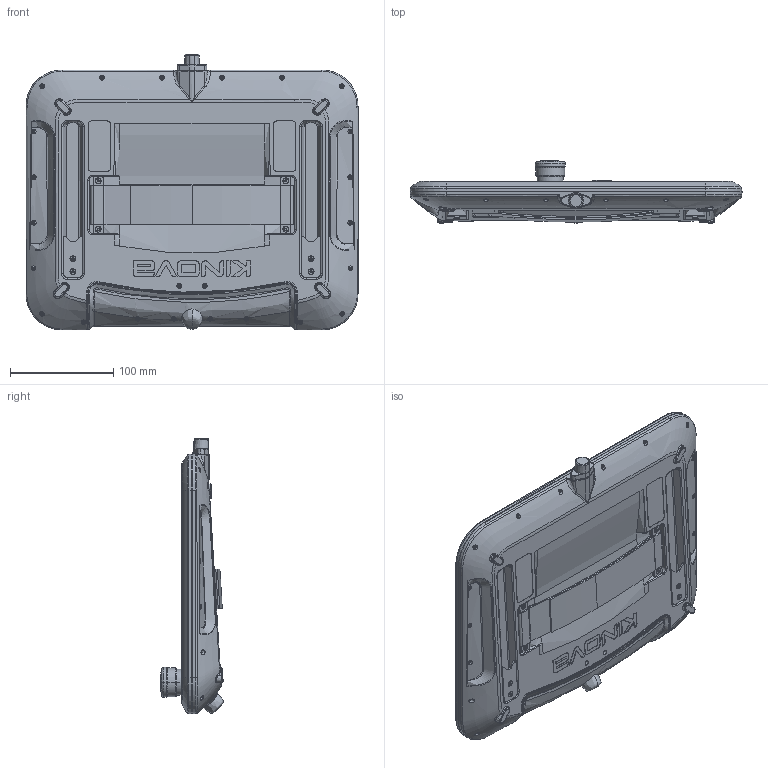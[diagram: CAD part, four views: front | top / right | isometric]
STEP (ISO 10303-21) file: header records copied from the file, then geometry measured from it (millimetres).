
FILE_DESCRIPTION (( 'STEP AP214' ), '1' );
FILE_NAME ('LINK TEACH PENDANT_LITE_R01.STEP', '2022-06-14T14:20:38', ( '' ), ( '' ), 'SwSTEP 2.0', 'SolidWorks 2022', '' );
FILE_SCHEMA (( 'AUTOMOTIVE_DESIGN' ));
Length unit declared in the file: foot
Products named in the file (1): LINK TEACH PENDANT_LITE_R01
Bounding box: 322 x 60.58 x 267.4 mm (x, y, z)
Volume: 1674581.4 mm3; surface area: 415325.9 mm2
Topology: 46 solids, 46 shells, 1938 faces, 4948 edges, 3182 vertices
Faces by surface type: cylinder 864, plane 490, bspline 345, cone 127, torus 112
Entity records: 114939 total; most frequent: CARTESIAN_POINT 44349, ORIENTED_EDGE 9848, DIRECTION 8882, EDGE_CURVE 4924, AXIS2_PLACEMENT_3D 3534, VERTEX_POINT 3180, EDGE_LOOP 2056, UNCERTAINTY_MEASURE_WITH_UNIT 1984
